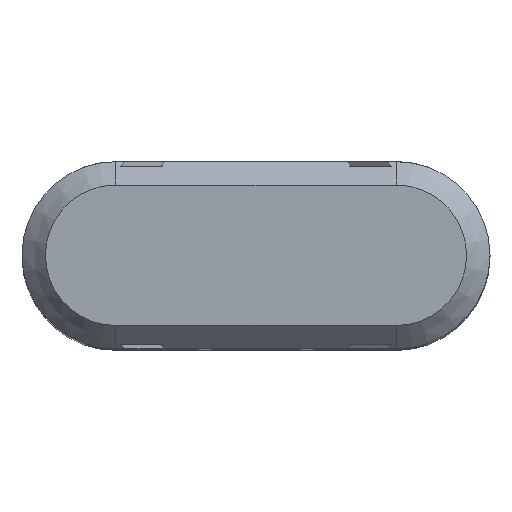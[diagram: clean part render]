
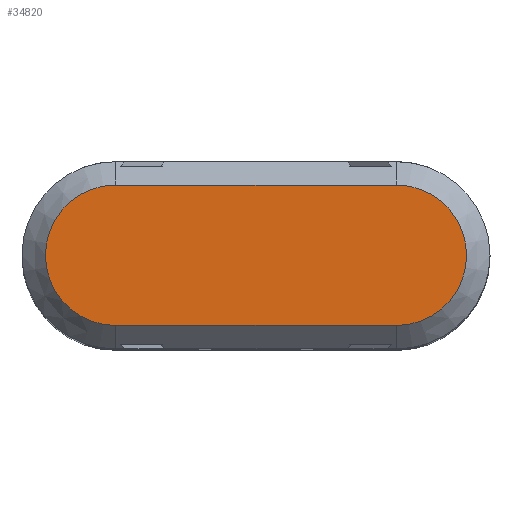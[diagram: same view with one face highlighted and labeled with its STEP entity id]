
A CAD part, top view. The second image highlights one B-rep face of the part: STEP entity #34820.
In plain terms, the highlighted planar face has unit normal (0, 0, 1).
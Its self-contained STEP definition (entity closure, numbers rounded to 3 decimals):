
#34410=CARTESIAN_POINT('',(0.44,8.044,
-34.4));
#34420=DIRECTION('',(0.,0.,1.));
#34430=DIRECTION('',(-1.,0.,0.));
#34440=AXIS2_PLACEMENT_3D('',#34410,#34420,#34430);
#34450=PLANE('',#34440);
#34460=CARTESIAN_POINT('',(7.869,4.044,
-34.4));
#34470=DIRECTION('',(0.,0.,-1.));
#34480=DIRECTION('',(-1.,0.,0.));
#34490=AXIS2_PLACEMENT_3D('',#34460,#34470,#34480);
#34500=CIRCLE('',#34490,3.);
#34510=CARTESIAN_POINT('',(7.869,1.044,
-34.4));
#34520=VERTEX_POINT('',#34510);
#34530=CARTESIAN_POINT('',(7.869,7.044,
-34.4));
#34540=VERTEX_POINT('',#34530);
#34550=EDGE_CURVE('',#34520,#34540,#34500,.T.);
#34560=ORIENTED_EDGE('',*,*,#34550,.F.);
#34570=CARTESIAN_POINT('',(13.869,7.044,-34.4));
#34580=DIRECTION('',(-1.,0.,0.));
#34590=VECTOR('',#34580,1.);
#34600=LINE('',#34570,#34590);
#34610=CARTESIAN_POINT('',(19.869,7.044,-34.4));
#34620=VERTEX_POINT('',#34610);
#34630=EDGE_CURVE('',#34620,#34540,#34600,.T.);
#34640=ORIENTED_EDGE('',*,*,#34630,.T.);
#34650=CARTESIAN_POINT('',(19.869,4.044,-34.4));
#34660=DIRECTION('',(0.,0.,-1.));
#34670=DIRECTION('',(-1.,0.,0.));
#34680=AXIS2_PLACEMENT_3D('',#34650,#34660,#34670);
#34690=CIRCLE('',#34680,3.);
#34700=CARTESIAN_POINT('',(19.869,1.044,-34.4));
#34710=VERTEX_POINT('',#34700);
#34720=EDGE_CURVE('',#34620,#34710,#34690,.T.);
#34730=ORIENTED_EDGE('',*,*,#34720,.F.);
#34740=CARTESIAN_POINT('',(13.869,1.044,
-34.4));
#34750=DIRECTION('',(1.,0.,0.));
#34760=VECTOR('',#34750,1.);
#34770=LINE('',#34740,#34760);
#34780=EDGE_CURVE('',#34520,#34710,#34770,.T.);
#34790=ORIENTED_EDGE('',*,*,#34780,.T.);
#34800=EDGE_LOOP('',(#34790,#34730,#34640,#34560));
#34810=FACE_OUTER_BOUND('',#34800,.T.);
#34820=ADVANCED_FACE('',(#34810),#34450,.T.);
